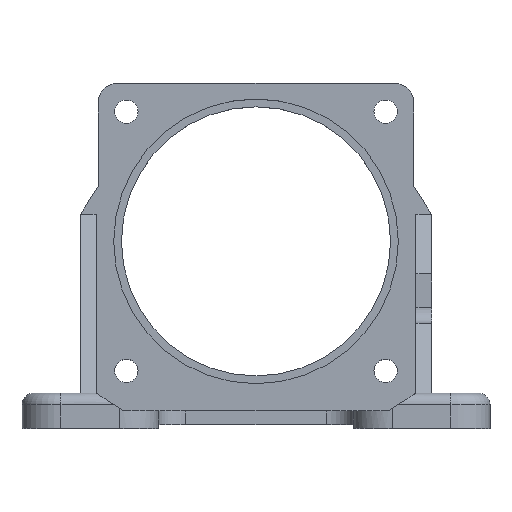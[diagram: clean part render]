
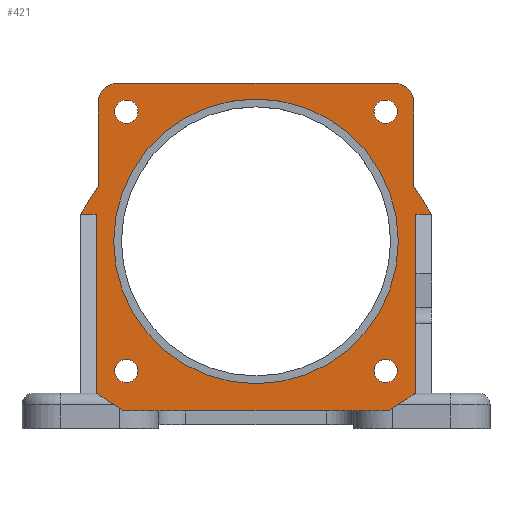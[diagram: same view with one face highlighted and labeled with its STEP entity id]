
A CAD part, top view. The second image highlights one B-rep face of the part: STEP entity #421.
In plain terms, the highlighted planar face has unit normal (0, 0, 1).
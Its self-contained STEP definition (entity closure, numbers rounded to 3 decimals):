
#180=CARTESIAN_POINT('',(41.,55.0,5.5));
#181=VERTEX_POINT('',#180);
#188=CARTESIAN_POINT('',(41.,9.0,5.5));
#189=VERTEX_POINT('',#188);
#190=CARTESIAN_POINT('',(41.,9.,5.5));
#191=DIRECTION('',(0.0,1.0,0.0));
#192=VECTOR('',#191,46.0);
#193=LINE('',#190,#192);
#194=EDGE_CURVE('',#189,#181,#193,.T.);
#219=CARTESIAN_POINT('',(45.0,55.,5.5));
#220=VERTEX_POINT('',#219);
#227=CARTESIAN_POINT('',(41.,55.,5.5));
#228=DIRECTION('',(1.0,0.0,0.0));
#229=VECTOR('',#228,4.);
#230=LINE('',#227,#229);
#231=EDGE_CURVE('',#181,#220,#230,.T.);
#261=CARTESIAN_POINT('',(0.,46.422,5.5));
#262=DIRECTION('',(0.0,0.0,1.0));
#263=DIRECTION('',(1.0,0.0,0.0));
#264=AXIS2_PLACEMENT_3D('',#261,#262,#263);
#265=PLANE('',#264);
#266=ORIENTED_EDGE('',*,*,#194,.T.);
#267=ORIENTED_EDGE('',*,*,#231,.T.);
#268=CARTESIAN_POINT('',(40.5,62.,5.5));
#269=VERTEX_POINT('',#268);
#270=CARTESIAN_POINT('',(40.5,62.,5.5));
#271=DIRECTION('',(0.541,-0.841,0.0));
#272=VECTOR('',#271,8.322);
#273=LINE('',#270,#272);
#274=EDGE_CURVE('',#269,#220,#273,.T.);
#275=ORIENTED_EDGE('',*,*,#274,.F.);
#276=CARTESIAN_POINT('',(40.5,83.5,5.5));
#277=VERTEX_POINT('',#276);
#278=CARTESIAN_POINT('',(40.5,83.5,5.5));
#279=DIRECTION('',(0.0,-1.0,0.0));
#280=VECTOR('',#279,21.5);
#281=LINE('',#278,#280);
#282=EDGE_CURVE('',#277,#269,#281,.T.);
#283=ORIENTED_EDGE('',*,*,#282,.F.);
#284=CARTESIAN_POINT('',(35.5,88.5,5.5));
#285=VERTEX_POINT('',#284);
#286=CARTESIAN_POINT('',(35.5,83.5,5.5));
#287=DIRECTION('',(0.0,0.0,-1.));
#288=DIRECTION('',(0.707,0.707,0.0));
#289=AXIS2_PLACEMENT_3D('',#286,#287,#288);
#290=CIRCLE('',#289,5.);
#291=EDGE_CURVE('',#285,#277,#290,.T.);
#292=ORIENTED_EDGE('',*,*,#291,.F.);
#293=CARTESIAN_POINT('',(-35.5,88.5,5.5));
#294=VERTEX_POINT('',#293);
#295=CARTESIAN_POINT('',(-35.5,88.5,5.5));
#296=DIRECTION('',(1.0,0.0,0.0));
#297=VECTOR('',#296,71.0);
#298=LINE('',#295,#297);
#299=EDGE_CURVE('',#294,#285,#298,.T.);
#300=ORIENTED_EDGE('',*,*,#299,.F.);
#301=CARTESIAN_POINT('',(-40.5,83.5,5.5));
#302=VERTEX_POINT('',#301);
#303=CARTESIAN_POINT('',(-35.5,83.5,5.5));
#304=DIRECTION('',(0.0,0.0,-1.));
#305=DIRECTION('',(-0.707,0.707,0.0));
#306=AXIS2_PLACEMENT_3D('',#303,#304,#305);
#307=CIRCLE('',#306,5.);
#308=EDGE_CURVE('',#302,#294,#307,.T.);
#309=ORIENTED_EDGE('',*,*,#308,.F.);
#310=CARTESIAN_POINT('',(-40.5,62.0,5.5));
#311=VERTEX_POINT('',#310);
#312=CARTESIAN_POINT('',(-40.5,62.0,5.5));
#313=DIRECTION('',(0.0,1.0,0.0));
#314=VECTOR('',#313,21.5);
#315=LINE('',#312,#314);
#316=EDGE_CURVE('',#311,#302,#315,.T.);
#317=ORIENTED_EDGE('',*,*,#316,.F.);
#318=CARTESIAN_POINT('',(-45.,55.0,5.5));
#319=VERTEX_POINT('',#318);
#320=CARTESIAN_POINT('',(-45.,55.,5.5));
#321=DIRECTION('',(0.541,0.841,0.0));
#322=VECTOR('',#321,8.322);
#323=LINE('',#320,#322);
#324=EDGE_CURVE('',#319,#311,#323,.T.);
#325=ORIENTED_EDGE('',*,*,#324,.F.);
#326=CARTESIAN_POINT('',(-41.,55.0,5.5));
#327=VERTEX_POINT('',#326);
#328=CARTESIAN_POINT('',(-45.,55.,5.5));
#329=DIRECTION('',(1.0,0.0,0.0));
#330=VECTOR('',#329,4.0);
#331=LINE('',#328,#330);
#332=EDGE_CURVE('',#319,#327,#331,.T.);
#333=ORIENTED_EDGE('',*,*,#332,.T.);
#334=CARTESIAN_POINT('',(-41.,9.,5.5));
#335=VERTEX_POINT('',#334);
#336=CARTESIAN_POINT('',(-41.,55.0,5.5));
#337=DIRECTION('',(0.0,-1.0,0.0));
#338=VECTOR('',#337,46.);
#339=LINE('',#336,#338);
#340=EDGE_CURVE('',#327,#335,#339,.T.);
#341=ORIENTED_EDGE('',*,*,#340,.T.);
#342=CARTESIAN_POINT('',(-34.0,4.5,5.5));
#343=VERTEX_POINT('',#342);
#344=CARTESIAN_POINT('',(-41.,9.,5.5));
#345=DIRECTION('',(0.841,-0.541,0.0));
#346=VECTOR('',#345,8.322);
#347=LINE('',#344,#346);
#348=EDGE_CURVE('',#335,#343,#347,.T.);
#349=ORIENTED_EDGE('',*,*,#348,.T.);
#350=CARTESIAN_POINT('',(34.0,4.5,5.5));
#351=VERTEX_POINT('',#350);
#352=CARTESIAN_POINT('',(-34.0,4.5,5.5));
#353=DIRECTION('',(1.0,0.0,0.0));
#354=VECTOR('',#353,68.0);
#355=LINE('',#352,#354);
#356=EDGE_CURVE('',#343,#351,#355,.T.);
#357=ORIENTED_EDGE('',*,*,#356,.T.);
#358=CARTESIAN_POINT('',(34.0,4.5,5.5));
#359=DIRECTION('',(0.841,0.541,0.0));
#360=VECTOR('',#359,8.322);
#361=LINE('',#358,#360);
#362=EDGE_CURVE('',#351,#189,#361,.T.);
#363=ORIENTED_EDGE('',*,*,#362,.T.);
#364=EDGE_LOOP('',(#266,#267,#275,#283,#292,#300,#309,#317,#325,#333,#341,#349,#357,#363));
#365=FACE_OUTER_BOUND('',#364,.T.);
#366=CARTESIAN_POINT('',(30.234,14.766,5.5));
#367=VERTEX_POINT('',#366);
#368=CARTESIAN_POINT('',(33.234,14.766,5.5));
#369=DIRECTION('',(0.0,0.0,-1.0));
#370=DIRECTION('',(1.0,0.0,0.0));
#371=AXIS2_PLACEMENT_3D('',#368,#369,#370);
#372=CIRCLE('',#371,3.);
#373=EDGE_CURVE('',#367,#367,#372,.T.);
#374=ORIENTED_EDGE('',*,*,#373,.T.);
#375=EDGE_LOOP('',(#374));
#376=FACE_BOUND('',#375,.T.);
#377=CARTESIAN_POINT('',(-36.234,14.766,5.5));
#378=VERTEX_POINT('',#377);
#379=CARTESIAN_POINT('',(-33.234,14.766,5.5));
#380=DIRECTION('',(0.0,0.0,-1.0));
#381=DIRECTION('',(1.0,0.0,0.0));
#382=AXIS2_PLACEMENT_3D('',#379,#380,#381);
#383=CIRCLE('',#382,3.);
#384=EDGE_CURVE('',#378,#378,#383,.T.);
#385=ORIENTED_EDGE('',*,*,#384,.T.);
#386=EDGE_LOOP('',(#385));
#387=FACE_BOUND('',#386,.T.);
#388=CARTESIAN_POINT('',(-36.234,81.234,5.5));
#389=VERTEX_POINT('',#388);
#390=CARTESIAN_POINT('',(-33.234,81.234,5.5));
#391=DIRECTION('',(0.0,0.0,-1.0));
#392=DIRECTION('',(1.0,0.0,0.0));
#393=AXIS2_PLACEMENT_3D('',#390,#391,#392);
#394=CIRCLE('',#393,3.);
#395=EDGE_CURVE('',#389,#389,#394,.T.);
#396=ORIENTED_EDGE('',*,*,#395,.T.);
#397=EDGE_LOOP('',(#396));
#398=FACE_BOUND('',#397,.T.);
#399=CARTESIAN_POINT('',(30.234,81.234,5.5));
#400=VERTEX_POINT('',#399);
#401=CARTESIAN_POINT('',(33.234,81.234,5.5));
#402=DIRECTION('',(0.0,0.0,-1.0));
#403=DIRECTION('',(1.0,0.0,0.0));
#404=AXIS2_PLACEMENT_3D('',#401,#402,#403);
#405=CIRCLE('',#404,3.);
#406=EDGE_CURVE('',#400,#400,#405,.T.);
#407=ORIENTED_EDGE('',*,*,#406,.T.);
#408=EDGE_LOOP('',(#407));
#409=FACE_BOUND('',#408,.T.);
#410=CARTESIAN_POINT('',(36.5,48.,5.5));
#411=VERTEX_POINT('',#410);
#412=CARTESIAN_POINT('',(0.0,48.,5.5));
#413=DIRECTION('',(0.0,0.0,-1.0));
#414=DIRECTION('',(-1.0,0.0,0.0));
#415=AXIS2_PLACEMENT_3D('',#412,#413,#414);
#416=CIRCLE('',#415,36.5);
#417=EDGE_CURVE('',#411,#411,#416,.T.);
#418=ORIENTED_EDGE('',*,*,#417,.T.);
#419=EDGE_LOOP('',(#418));
#420=FACE_BOUND('',#419,.T.);
#421=ADVANCED_FACE('',(#365,#376,#387,#398,#409,#420),#265,.T.);
